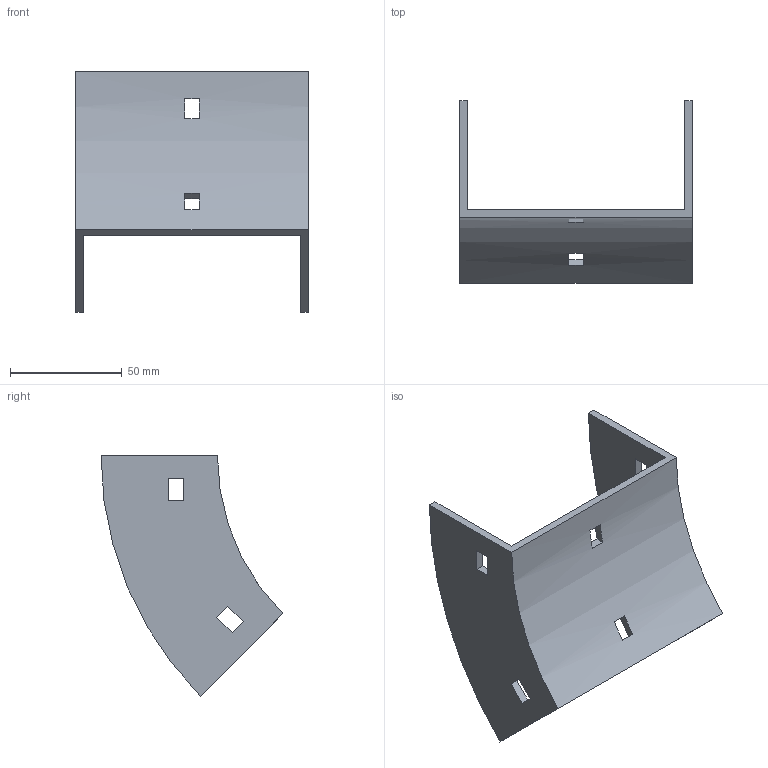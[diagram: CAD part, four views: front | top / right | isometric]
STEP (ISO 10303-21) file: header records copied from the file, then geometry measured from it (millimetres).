
FILE_DESCRIPTION (( 'STEP AP214' ), '1' );
FILE_NAME ('34B1B100.step', '2025-02-21T09:28:15', ( '' ), ( '' ), 'SwSTEP 2.0', 'SolidWorks 2023', '' );
FILE_SCHEMA (( 'AUTOMOTIVE_DESIGN' ));
Length unit declared in the file: millimetre
Products named in the file (1): 34B1B100
Bounding box: 104 x 81.29 x 107.48 mm (x, y, z)
Volume: 61757.2 mm3; surface area: 38219 mm2
Topology: 1 solids, 1 shells, 34 faces, 96 edges, 64 vertices
Faces by surface type: plane 30, cylinder 4
Entity records: 1143 total; most frequent: CARTESIAN_POINT 195, ORIENTED_EDGE 192, DIRECTION 182, EDGE_CURVE 96, VECTOR 80, LINE 80, VERTEX_POINT 64, AXIS2_PLACEMENT_3D 51
